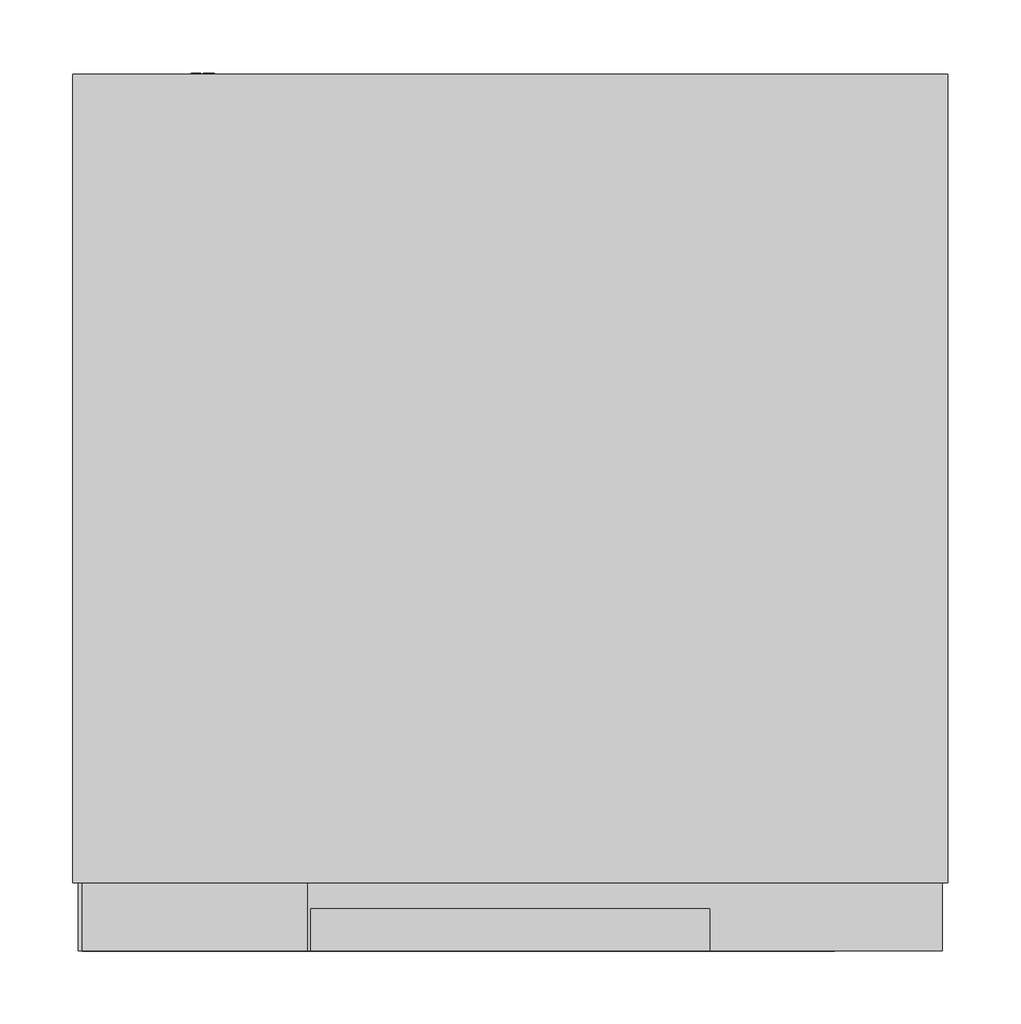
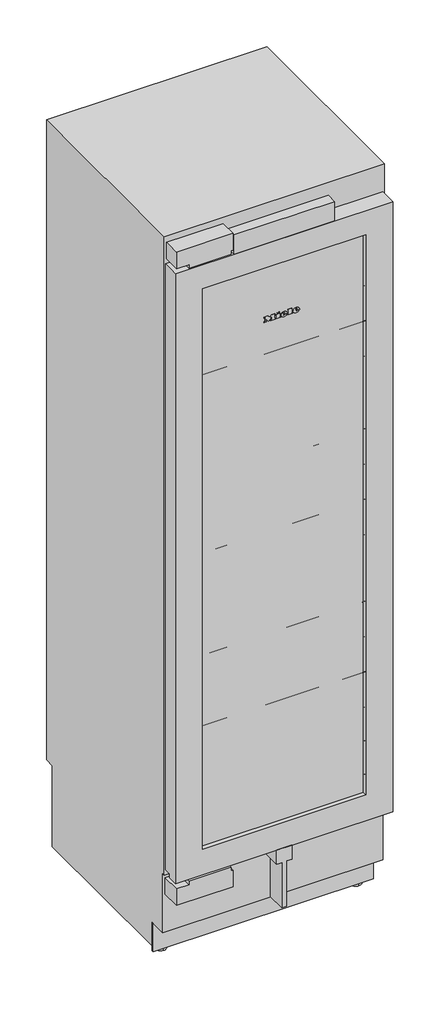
# Not in any storey: 1 proxy.
"""IFC4 building model written with IfcOpenShell, lengths in millimetres."""

from ifc_helpers import new_model, si_unit, origin, place, context, project, spatial, transform, mapped, element, save
from components import specialty_equipment_8097dcfd, specialty_equipment_b9ffa979, specialty_equipment_6ad02c8c, specialty_equipment_e5b69a9d

model = new_model("IFC4")

# Units and contexts
model_context = context("Model", 3, world=origin())
ifc_project = project(units=[si_unit("LENGTHUNIT", "METRE", prefix="MILLI")], contexts=[model_context])

# Site, building
site = spatial("IfcSite", under=ifc_project)
building = spatial("IfcBuilding", under=site)

# Proxy
placement = place(None, origin())
specialty_equipment_shape = specialty_equipment_8097dcfd(model_context)
specialty_equipment_2_shape = specialty_equipment_b9ffa979(model_context)
specialty_equipment_3_shape = specialty_equipment_6ad02c8c(model_context)
specialty_equipment_4_shape = specialty_equipment_e5b69a9d(model_context)
element("IfcBuildingElementProxy", 1, Name="11530900_GB_KWT2612VI : 36261205_GB_11530900_KWT2612VI", ObjectType="11530900_GB_KWT2612VI : 36261205_GB_11530900_KWT2612VI", at=placement, inside=building, context=model_context, shape_type="MappedRepresentation", body=[
    mapped(specialty_equipment_shape, transform((0.0, 0.0, 0.0), x_axis=(1.0, 0.0, 0.0), y_axis=(0.0, 1.0, 0.0), z_axis=(0.0, 0.0, 1.0))),
    mapped(specialty_equipment_2_shape, transform((0.0, 0.0, 0.0), x_axis=(1.0, 0.0, 0.0), y_axis=(0.0, 1.0, 0.0), z_axis=(0.0, 0.0, 1.0))),
    mapped(specialty_equipment_3_shape, transform((0.0, 0.0, 0.0), x_axis=(1.0, 0.0, 0.0), y_axis=(0.0, 1.0, 0.0), z_axis=(0.0, 0.0, 1.0))),
    mapped(specialty_equipment_4_shape, transform((0.0, 0.0, 0.0), x_axis=(1.0, 0.0, 0.0), y_axis=(0.0, 1.0, 0.0), z_axis=(0.0, 0.0, 1.0))),
])

save(model, "model.ifc")
